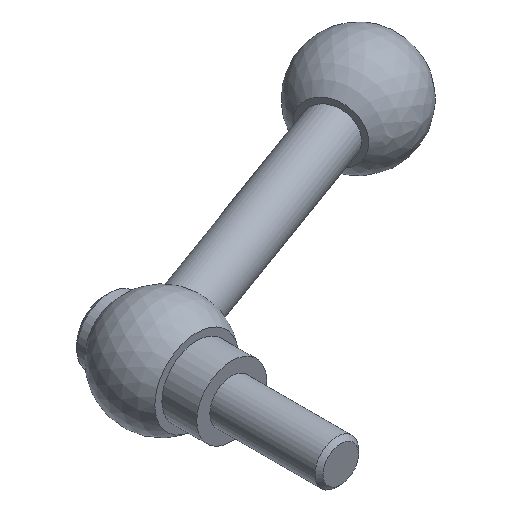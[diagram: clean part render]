
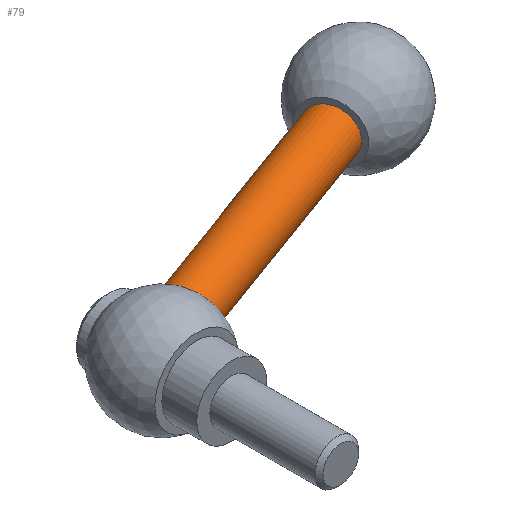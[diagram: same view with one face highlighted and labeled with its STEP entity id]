
A CAD part, isometric view. The second image highlights one B-rep face of the part: STEP entity #79.
In plain terms, the highlighted cylindrical face has radius 5.5 mm (diameter 11 mm), a full revolution.
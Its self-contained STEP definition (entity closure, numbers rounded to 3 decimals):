
#79 = ADVANCED_FACE( '', ( #100, #101 ), #102, .T. );
#100 = FACE_OUTER_BOUND( '', #137, .T. );
#101 = FACE_OUTER_BOUND( '', #138, .T. );
#102 = CYLINDRICAL_SURFACE( '', #139, 5.5 );
#137 = EDGE_LOOP( '', ( #184 ) );
#138 = EDGE_LOOP( '', ( #185, #186 ) );
#139 = AXIS2_PLACEMENT_3D( '', #187, #188, #189 );
#184 = ORIENTED_EDGE( '', *, *, #235, .F. );
#185 = ORIENTED_EDGE( '', *, *, #232, .F. );
#186 = ORIENTED_EDGE( '', *, *, #234, .T. );
#187 = CARTESIAN_POINT( '', ( 86.246, 49.775, 0. ) );
#188 = DIRECTION( '', ( -0.94, -0.342, 0. ) );
#189 = DIRECTION( '', ( -0.342, 0.94, 0. ) );
#232 = EDGE_CURVE( '', #248, #247, #250, .T. );
#234 = EDGE_CURVE( '', #248, #247, #253, .T. );
#235 = EDGE_CURVE( '', #254, #254, #255, .T. );
#247 = VERTEX_POINT( '', #272 );
#248 = VERTEX_POINT( '', #273 );
#250 = B_SPLINE_CURVE_WITH_KNOTS( '', 3, ( #275, #276, #277, #278, #279, #280, #281, #282, #283, #284, #285, #286, #287, #288, #289, #290, #291, #292, #293, #294, #295, #296, #297, #298, #299, #300, #301, #302, #303, #304, #305, #306, #307, #308, #309, #310, #311, #312, #313, #314, #315, #316, #317, #318, #319, #320, #321, #322, #323, #324, #325, #326, #327, #328, #329, #330, #331, #332, #333, #334 ), .UNSPECIFIED., .F., .F., ( 4, 2, 2, 2, 2, 2, 2, 2, 2, 2, 2, 2, 2, 2, 2, 2, 2, 2, 2, 2, 2, 2, 2, 2, 2, 2, 2, 2, 2, 4 ), ( 0., 0.002, 0.004, 0.005, 0.005, 0.006, 0.007, 0.008, 0.009, 0.01, 0.011, 0.012, 0.013, 0.014, 0.015, 0.015, 0.016, 0.017, 0.018, 0.019, 0.02, 0.021, 0.022, 0.023, 0.024, 0.024, 0.025, 0.026, 0.027, 0.029 ), .UNSPECIFIED. );
#253 = B_SPLINE_CURVE_WITH_KNOTS( '', 3, ( #337, #338, #339, #340, #341, #342, #343, #344, #345, #346, #347, #348, #349, #350 ), .UNSPECIFIED., .F., .F., ( 4, 2, 2, 2, 2, 2, 4 ), ( 0., 0.002, 0.002, 0.003, 0.004, 0.005, 0.006 ), .UNSPECIFIED. );
#254 = VERTEX_POINT( '', #351 );
#255 = CIRCLE( '', #352, 5.5 );
#272 = CARTESIAN_POINT( '', ( 6.981, 26., 2.74 ) );
#273 = CARTESIAN_POINT( '', ( 6.981, 26., -2.74 ) );
#275 = CARTESIAN_POINT( '', ( 6.981, 26., -2.74 ) );
#276 = CARTESIAN_POINT( '', ( 7.149, 25.738, -3.269 ) );
#277 = CARTESIAN_POINT( '', ( 7.359, 25.41, -3.732 ) );
#278 = CARTESIAN_POINT( '', ( 7.856, 24.625, -4.53 ) );
#279 = CARTESIAN_POINT( '', ( 8.132, 24.187, -4.845 ) );
#280 = CARTESIAN_POINT( '', ( 8.582, 23.466, -5.192 ) );
#281 = CARTESIAN_POINT( '', ( 8.736, 23.219, -5.284 ) );
#282 = CARTESIAN_POINT( '', ( 9.046, 22.718, -5.42 ) );
#283 = CARTESIAN_POINT( '', ( 9.203, 22.463, -5.465 ) );
#284 = CARTESIAN_POINT( '', ( 9.522, 21.945, -5.507 ) );
#285 = CARTESIAN_POINT( '', ( 9.682, 21.683, -5.504 ) );
#286 = CARTESIAN_POINT( '', ( 9.996, 21.169, -5.449 ) );
#287 = CARTESIAN_POINT( '', ( 10.151, 20.914, -5.398 ) );
#288 = CARTESIAN_POINT( '', ( 10.457, 20.41, -5.248 ) );
#289 = CARTESIAN_POINT( '', ( 10.608, 20.161, -5.148 ) );
#290 = CARTESIAN_POINT( '', ( 10.895, 19.685, -4.906 ) );
#291 = CARTESIAN_POINT( '', ( 11.032, 19.457, -4.764 ) );
#292 = CARTESIAN_POINT( '', ( 11.294, 19.019, -4.435 ) );
#293 = CARTESIAN_POINT( '', ( 11.42, 18.808, -4.247 ) );
#294 = CARTESIAN_POINT( '', ( 11.65, 18.422, -3.84 ) );
#295 = CARTESIAN_POINT( '', ( 11.756, 18.245, -3.62 ) );
#296 = CARTESIAN_POINT( '', ( 11.948, 17.921, -3.145 ) );
#297 = CARTESIAN_POINT( '', ( 12.036, 17.773, -2.888 ) );
#298 = CARTESIAN_POINT( '', ( 12.185, 17.521, -2.356 ) );
#299 = CARTESIAN_POINT( '', ( 12.248, 17.414, -2.08 ) );
#300 = CARTESIAN_POINT( '', ( 12.35, 17.242, -1.508 ) );
#301 = CARTESIAN_POINT( '', ( 12.389, 17.175, -1.21 ) );
#302 = CARTESIAN_POINT( '', ( 12.441, 17.087, -0.61 ) );
#303 = CARTESIAN_POINT( '', ( 12.454, 17.065, -0.309 ) );
#304 = CARTESIAN_POINT( '', ( 12.455, 17.064, 0.297 ) );
#305 = CARTESIAN_POINT( '', ( 12.442, 17.086, 0.605 ) );
#306 = CARTESIAN_POINT( '', ( 12.39, 17.174, 1.204 ) );
#307 = CARTESIAN_POINT( '', ( 12.352, 17.239, 1.497 ) );
#308 = CARTESIAN_POINT( '', ( 12.25, 17.41, 2.069 ) );
#309 = CARTESIAN_POINT( '', ( 12.186, 17.519, 2.351 ) );
#310 = CARTESIAN_POINT( '', ( 12.037, 17.771, 2.884 ) );
#311 = CARTESIAN_POINT( '', ( 11.952, 17.915, 3.136 ) );
#312 = CARTESIAN_POINT( '', ( 11.76, 18.238, 3.611 ) );
#313 = CARTESIAN_POINT( '', ( 11.652, 18.419, 3.837 ) );
#314 = CARTESIAN_POINT( '', ( 11.421, 18.806, 4.245 ) );
#315 = CARTESIAN_POINT( '', ( 11.298, 19.012, 4.43 ) );
#316 = CARTESIAN_POINT( '', ( 11.036, 19.449, 4.758 ) );
#317 = CARTESIAN_POINT( '', ( 10.897, 19.682, 4.904 ) );
#318 = CARTESIAN_POINT( '', ( 10.609, 20.159, 5.148 ) );
#319 = CARTESIAN_POINT( '', ( 10.461, 20.404, 5.246 ) );
#320 = CARTESIAN_POINT( '', ( 10.157, 20.906, 5.396 ) );
#321 = CARTESIAN_POINT( '', ( 9.999, 21.165, 5.449 ) );
#322 = CARTESIAN_POINT( '', ( 9.683, 21.683, 5.504 ) );
#323 = CARTESIAN_POINT( '', ( 9.525, 21.941, 5.507 ) );
#324 = CARTESIAN_POINT( '', ( 9.208, 22.455, 5.466 ) );
#325 = CARTESIAN_POINT( '', ( 9.049, 22.713, 5.422 ) );
#326 = CARTESIAN_POINT( '', ( 8.736, 23.218, 5.284 ) );
#327 = CARTESIAN_POINT( '', ( 8.583, 23.463, 5.193 ) );
#328 = CARTESIAN_POINT( '', ( 8.287, 23.939, 4.965 ) );
#329 = CARTESIAN_POINT( '', ( 8.142, 24.169, 4.828 ) );
#330 = CARTESIAN_POINT( '', ( 7.864, 24.612, 4.51 ) );
#331 = CARTESIAN_POINT( '', ( 7.733, 24.819, 4.332 ) );
#332 = CARTESIAN_POINT( '', ( 7.365, 25.401, 3.742 ) );
#333 = CARTESIAN_POINT( '', ( 7.149, 25.738, 3.269 ) );
#334 = CARTESIAN_POINT( '', ( 6.981, 26., 2.74 ) );
#337 = CARTESIAN_POINT( '', ( 6.981, 26., -2.74 ) );
#338 = CARTESIAN_POINT( '', ( 7.133, 26.29, -2.355 ) );
#339 = CARTESIAN_POINT( '', ( 7.262, 26.531, -1.933 ) );
#340 = CARTESIAN_POINT( '', ( 7.402, 26.788, -1.234 ) );
#341 = CARTESIAN_POINT( '', ( 7.438, 26.854, -0.996 ) );
#342 = CARTESIAN_POINT( '', ( 7.487, 26.943, -0.508 ) );
#343 = CARTESIAN_POINT( '', ( 7.5, 26.967, -0.257 ) );
#344 = CARTESIAN_POINT( '', ( 7.5, 26.967, 0.248 ) );
#345 = CARTESIAN_POINT( '', ( 7.488, 26.944, 0.497 ) );
#346 = CARTESIAN_POINT( '', ( 7.439, 26.856, 0.987 ) );
#347 = CARTESIAN_POINT( '', ( 7.402, 26.789, 1.231 ) );
#348 = CARTESIAN_POINT( '', ( 7.264, 26.534, 1.927 ) );
#349 = CARTESIAN_POINT( '', ( 7.133, 26.291, 2.355 ) );
#350 = CARTESIAN_POINT( '', ( 6.981, 26., 2.74 ) );
#351 = CARTESIAN_POINT( '', ( 62.752, 47.077, 0. ) );
#352 = AXIS2_PLACEMENT_3D( '', #377, #378, #379 );
#377 = CARTESIAN_POINT( '', ( 64.633, 41.909, 0. ) );
#378 = DIRECTION( '', ( 0.94, 0.342, 0. ) );
#379 = DIRECTION( '', ( -0.342, 0.94, 0. ) );
